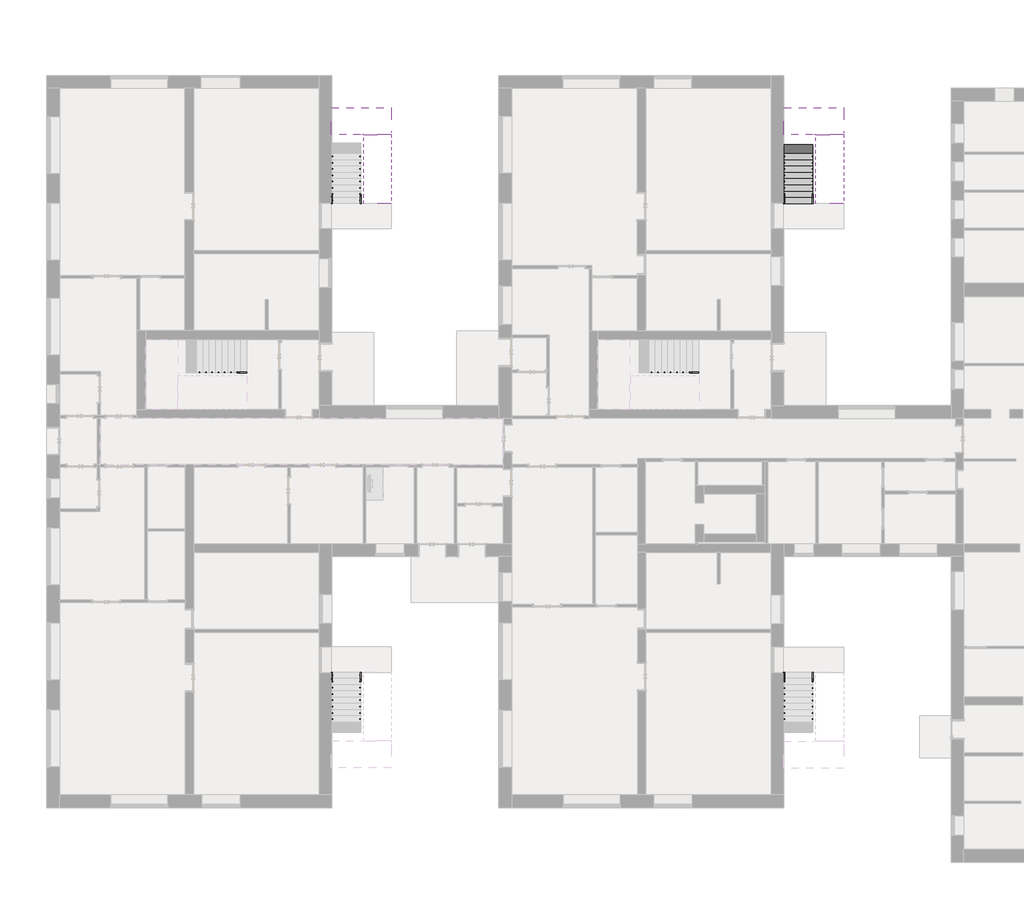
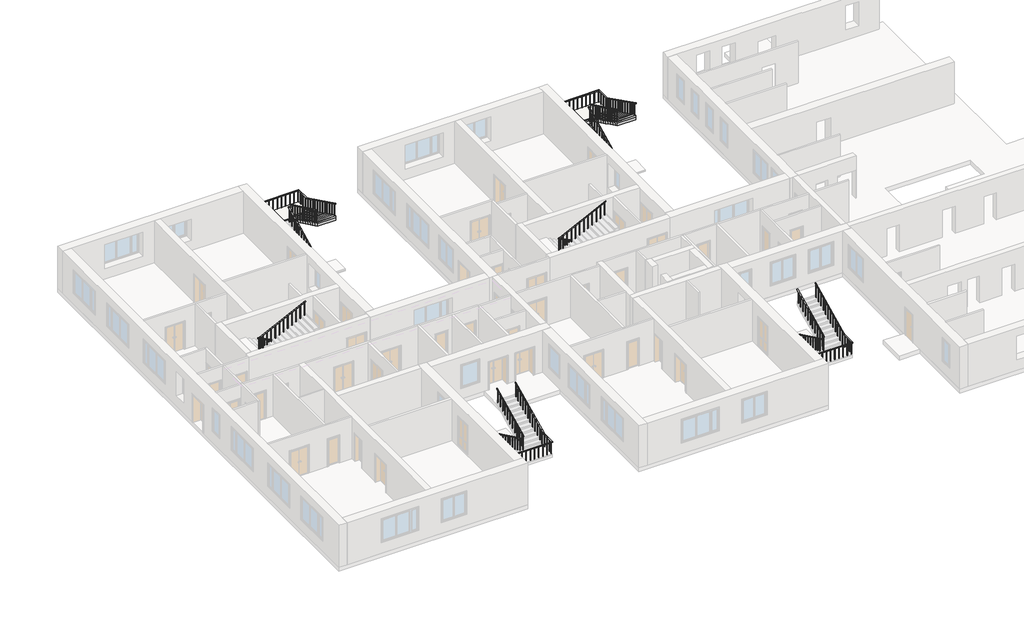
# One storey, part 9 of 10: 10 railings, 3 stair flights, 2 slabs.
"""IFC4 building model written with IfcOpenShell, lengths in millimetres."""

from ifc_helpers import new_model, si_unit, frame, origin, origin_with_axes, place, context, project, spatial, polyline, outline, extrude, faceted_brep, transform, mapped, element, save
from components import railing_d2b8c903, railing_f261a96f, railing_cd388d6e, railing_b141eba5, railing_4d810907, railing_037dd4ae, railing_066ca7b3, railing_68418ca2, railing_3763919b, railing_92f266af

model = new_model("IFC4")

# Units and contexts
model_context = context("Model", 3, world=origin())
ifc_project = project(units=[si_unit("LENGTHUNIT", "METRE", prefix="MILLI")], contexts=[model_context])

# Site, building, storey
site = spatial("IfcSite", under=ifc_project)
building = spatial("IfcBuilding", under=site)
storey = spatial("IfcBuildingStorey", under=building, Name="1 этаж", Elevation=0.0)

# Railings
placement = place(None, origin())
railing_shape = railing_d2b8c903(model_context)
element("IfcRailing", 1, ObjectType="ADSK_Стандартное_h 900 Поручень квадратный без направляющих", at=placement, inside=storey, context=model_context, shape_type="MappedRepresentation", body=[
    mapped(railing_shape, transform((0.0, 0.0, 0.0), x_axis=(1.0, 0.0, 0.0), y_axis=(0.0, 1.0, 0.0), z_axis=(0.0, 0.0, 1.0))),
])
railing_2_shape = railing_f261a96f(model_context)
element("IfcRailing", 2, ObjectType="ADSK_Стандартное_h 900 Поручень квадратный без направляющих", at=placement, inside=storey, context=model_context, shape_type="MappedRepresentation", body=[
    mapped(railing_2_shape, transform((0.0, 0.0, 0.0), x_axis=(1.0, 0.0, 0.0), y_axis=(0.0, 1.0, 0.0), z_axis=(0.0, 0.0, 1.0))),
])
railing_3_shape = railing_cd388d6e(model_context)
element("IfcRailing", 3, ObjectType="ADSK_Стандартное_h 900 Поручень квадратный без направляющих", at=placement, inside=storey, context=model_context, shape_type="MappedRepresentation", body=[
    mapped(railing_3_shape, transform((0.0, 0.0, 0.0), x_axis=(1.0, 0.0, 0.0), y_axis=(0.0, 1.0, 0.0), z_axis=(0.0, 0.0, 1.0))),
])
railing_4_shape = railing_b141eba5(model_context)
element("IfcRailing", 4, ObjectType="ADSK_Стандартное_h 900 Поручень квадратный без направляющих", at=placement, inside=storey, context=model_context, shape_type="MappedRepresentation", body=[
    mapped(railing_4_shape, transform((0.0, 0.0, 0.0), x_axis=(1.0, 0.0, 0.0), y_axis=(0.0, 1.0, 0.0), z_axis=(0.0, 0.0, 1.0))),
])
railing_5_shape = railing_4d810907(model_context)
element("IfcRailing", 5, ObjectType="ADSK_Стандартное_h 900 Поручень квадратный без направляющих", at=placement, inside=storey, context=model_context, shape_type="MappedRepresentation", body=[
    mapped(railing_5_shape, transform((0.0, 0.0, 0.0), x_axis=(1.0, 0.0, 0.0), y_axis=(0.0, 1.0, 0.0), z_axis=(0.0, 0.0, 1.0))),
])
railing_6_shape = railing_037dd4ae(model_context)
element("IfcRailing", 6, ObjectType="ADSK_Стандартное_h 900 Поручень квадратный без направляющих", at=placement, inside=storey, context=model_context, shape_type="MappedRepresentation", body=[
    mapped(railing_6_shape, transform((0.0, 0.0, 0.0), x_axis=(1.0, 0.0, 0.0), y_axis=(0.0, 1.0, 0.0), z_axis=(0.0, 0.0, 1.0))),
])
railing_7_shape = railing_066ca7b3(model_context)
element("IfcRailing", 7, ObjectType="ADSK_Стандартное_h 900 Поручень квадратный без направляющих", at=placement, inside=storey, context=model_context, shape_type="MappedRepresentation", body=[
    mapped(railing_7_shape, transform((0.0, 0.0, 0.0), x_axis=(1.0, 0.0, 0.0), y_axis=(0.0, 1.0, 0.0), z_axis=(0.0, 0.0, 1.0))),
])
railing_8_shape = railing_68418ca2(model_context)
element("IfcRailing", 8, ObjectType="ADSK_Стандартное_h 900 Поручень квадратный без направляющих", at=placement, inside=storey, context=model_context, shape_type="MappedRepresentation", body=[
    mapped(railing_8_shape, transform((0.0, 0.0, 0.0), x_axis=(1.0, 0.0, 0.0), y_axis=(0.0, 1.0, 0.0), z_axis=(0.0, 0.0, 1.0))),
])
railing_9_shape = railing_3763919b(model_context)
element("IfcRailing", 9, ObjectType="ADSK_Стандартное_h 900 Поручень квадратный без направляющих", at=placement, inside=storey, context=model_context, shape_type="MappedRepresentation", body=[
    mapped(railing_9_shape, transform((0.0, 0.0, 0.0), x_axis=(1.0, 0.0, 0.0), y_axis=(0.0, 1.0, 0.0), z_axis=(0.0, 0.0, 1.0))),
])
railing_10_shape = railing_92f266af(model_context)
element("IfcRailing", 10, ObjectType="ADSK_Стандартное_h 900 Поручень квадратный без направляющих", at=placement, inside=storey, context=model_context, shape_type="MappedRepresentation", body=[
    mapped(railing_10_shape, transform((0.0, 0.0, 0.0), x_axis=(1.0, 0.0, 0.0), y_axis=(0.0, 1.0, 0.0), z_axis=(0.0, 0.0, 1.0))),
])

# Slabs
element("IfcSlab", 11, ObjectType="ADSK_Монолитная_С отделкой_200х80", at=placement, inside=storey, context=model_context, shape_type="SolidModel", body=[
    faceted_brep([(-3162.3240021, 19819.4362632, 1710.0), (-3162.3240021, 19834.4362632, 1710.0), (-1782.7240021, 19834.4362632, 1710.0), (-1782.7240021, 19819.4362632, 1710.0), (-1641.9240021, 19819.4362632, 1710.0), (-1641.9240021, 19804.4362632, 1710.0), (-312.7240021, 19804.4362632, 1710.0), (-312.7240021, 19819.4362632, 1710.0), (-312.7240021, 19970.319489, 1710.0), (-312.7240021, 21109.0362632, 1710.0), (-3182.3240021, 21109.0362632, 1710.0), (-3182.3240021, 19819.4362632, 1710.0), (-3182.3240021, 19819.4362632, 1510.0), (-3162.3240021, 19819.4362632, 1510.0), (-3162.3240021, 19834.4362632, 1510.0), (-3162.3240021, 19834.4362632, 1610.8333333), (-1782.7240021, 19819.4362632, 1510.0), (-1641.9240021, 19819.4362632, 1510.0), (-1641.9240021, 19819.4362632, 1585.0224928), (-1641.9240021, 19804.4362632, 1592.4808261), (-312.7240021, 19804.4362632, 1592.4808261), (-312.7240021, 19819.4362632, 1585.0224928), (-312.7240021, 19970.319489, 1510.0), (-312.7240021, 21109.0362632, 1510.0), (-3182.3240021, 21109.0362632, 1510.0), (-1641.9240021, 19970.319489, 1510.0), (-1782.7240021, 19834.4362632, 1510.0), (-1782.7240021, 19968.5530375, 1510.0), (-3162.3240021, 19968.5530375, 1510.0), (-1782.7240021, 19834.4362632, 1443.3141595), (-3162.3240021, 19834.4362632, 1443.3141595), (-1782.7240021, 19834.4362632, 1610.8333333)], [[[0, 1, 2, 3, 4, 5, 6, 7, 8, 9, 10, 11]], [[0, 11, 12, 13]], [[1, 0, 13, 14, 15]], [[4, 3, 16, 17, 18]], [[5, 4, 18, 19]], [[6, 5, 19, 20]], [[7, 6, 20, 21]], [[7, 21, 22, 23, 9, 8]], [[10, 9, 23, 24]], [[11, 10, 24, 12]], [[25, 17, 16, 26, 27, 28, 14, 13, 12, 24, 23, 22]], [[28, 27, 29, 30]], [[27, 26, 29]], [[14, 28, 30]], [[25, 22, 21, 20, 19, 18]], [[2, 1, 15, 14, 30, 29, 26, 31]], [[3, 2, 31, 26, 16]], [[17, 25, 18]]]),
    extrude(outline(polyline([(-3162.3240021, 19819.4362632), (-3182.3240021, 19819.4362632), (-3182.3240021, 21109.0362632), (-312.7240021, 21109.0362632), (-312.7240021, 19819.4362632), (-1641.9240021, 19819.4362632), (-1782.7240021, 19819.4362632), (-3162.3240021, 19819.4362632)])), frame((0.0, 0.0, 1710.0), z_axis=(0.0, 0.0, 1.0), x_axis=(1.0, 0.0, 0.0)), (0.0, 0.0, 1.0), 80.0),
])
element("IfcSlab", 12, ObjectType="ADSK_Монолитная_С отделкой_200х80", at=placement, inside=storey, context=model_context, shape_type="SolidModel", body=[
    faceted_brep([(-24802.3240021, 19819.4362632, 1670.0), (-24802.3240021, 19834.4362632, 1670.0), (-23422.7240021, 19834.4362632, 1670.0), (-23422.7240021, 19819.4362632, 1670.0), (-23281.9240021, 19819.4362632, 1670.0), (-23281.9240021, 19804.4362632, 1670.0), (-21952.7240021, 19804.4362632, 1670.0), (-21952.7240021, 19819.4362632, 1670.0), (-21952.7240021, 19975.6238479, 1670.0), (-21952.7240021, 21109.0362632, 1670.0), (-24822.3240021, 21109.0362632, 1670.0), (-24822.3240021, 19819.4362632, 1670.0), (-24822.3240021, 19819.4362632, 1470.0), (-24802.3240021, 19819.4362632, 1470.0), (-24802.3240021, 19834.4362632, 1470.0), (-24802.3240021, 19834.4362632, 1574.1666667), (-23422.7240021, 19819.4362632, 1470.0), (-23281.9240021, 19819.4362632, 1470.0), (-23281.9240021, 19819.4362632, 1545.9245203), (-23281.9240021, 19804.4362632, 1553.216187), (-21952.7240021, 19804.4362632, 1553.216187), (-21952.7240021, 19819.4362632, 1545.9245203), (-21952.7240021, 19975.6238479, 1470.0), (-21952.7240021, 21109.0362632, 1470.0), (-24822.3240021, 21109.0362632, 1470.0), (-23281.9240021, 19975.6238479, 1470.0), (-23422.7240021, 19834.4362632, 1470.0), (-23422.7240021, 19963.2486785, 1470.0), (-24802.3240021, 19963.2486785, 1470.0), (-23422.7240021, 19834.4362632, 1407.3828537), (-24802.3240021, 19834.4362632, 1407.3828537), (-23422.7240021, 19834.4362632, 1574.1666667)], [[[0, 1, 2, 3, 4, 5, 6, 7, 8, 9, 10, 11]], [[0, 11, 12, 13]], [[1, 0, 13, 14, 15]], [[4, 3, 16, 17, 18]], [[5, 4, 18, 19]], [[6, 5, 19, 20]], [[7, 6, 20, 21]], [[7, 21, 22, 23, 9, 8]], [[10, 9, 23, 24]], [[11, 10, 24, 12]], [[25, 17, 16, 26, 27, 28, 14, 13, 12, 24, 23, 22]], [[28, 27, 29, 30]], [[27, 26, 29]], [[14, 28, 30]], [[25, 22, 21, 20, 19, 18]], [[2, 1, 15, 14, 30, 29, 26, 31]], [[3, 2, 31, 26, 16]], [[17, 25, 18]]]),
    extrude(outline(polyline([(-24802.3240021, 19819.4362632), (-24822.3240021, 19819.4362632), (-24822.3240021, 21109.0362632), (-21952.7240021, 21109.0362632), (-21952.7240021, 19819.4362632), (-23281.9240021, 19819.4362632), (-23422.7240021, 19819.4362632), (-24802.3240021, 19819.4362632)])), frame((0.0, 0.0, 1670.0), z_axis=(0.0, 0.0, 1.0), x_axis=(1.0, 0.0, 0.0)), (0.0, 0.0, 1.0), 80.0),
])

# Stair flights
element("IfcStairFlight", 13, ObjectType="ADSK_Монолитный_С отделкой_150х30х15", at=placement, inside=storey, context=model_context, shape_type="SolidModel", body=[
    faceted_brep([(-3162.3240021, 16834.4362632, 119.1666667), (-3162.3240021, 16534.4362632, 119.1666667), (-1782.7240021, 16534.4362632, 119.1666667), (-1782.7240021, 16834.4362632, 119.1666667), (-3162.3240021, 16834.4362632, 0.0), (-3162.3240021, 16534.4362632, 0.0), (-1782.7240021, 16534.4362632, 0.0), (-1782.7240021, 16834.4362632, 0.0), (-3162.3240021, 17134.4362632, 268.3333333), (-3162.3240021, 16834.4362632, 268.3333333), (-1782.7240021, 16834.4362632, 268.3333333), (-1782.7240021, 17134.4362632, 268.3333333), (-3162.3240021, 17134.4362632, 100.8141595), (-3162.3240021, 16931.6815291, 0.0), (-1782.7240021, 16931.6815291, 0.0), (-1782.7240021, 17134.4362632, 100.8141595), (-3162.3240021, 17434.4362632, 417.5), (-3162.3240021, 17134.4362632, 417.5), (-1782.7240021, 17134.4362632, 417.5), (-1782.7240021, 17434.4362632, 417.5), (-3162.3240021, 17434.4362632, 249.9808261), (-1782.7240021, 17434.4362632, 249.9808261), (-3162.3240021, 17734.4362632, 566.6666667), (-3162.3240021, 17434.4362632, 566.6666667), (-1782.7240021, 17434.4362632, 566.6666667), (-1782.7240021, 17734.4362632, 566.6666667), (-3162.3240021, 17734.4362632, 399.1474928), (-1782.7240021, 17734.4362632, 399.1474928), (-3162.3240021, 18034.4362632, 715.8333333), (-3162.3240021, 17734.4362632, 715.8333333), (-1782.7240021, 17734.4362632, 715.8333333), (-1782.7240021, 18034.4362632, 715.8333333), (-3162.3240021, 18034.4362632, 548.3141595), (-1782.7240021, 18034.4362632, 548.3141595), (-3162.3240021, 18334.4362632, 865.0), (-3162.3240021, 18034.4362632, 865.0), (-1782.7240021, 18034.4362632, 865.0), (-1782.7240021, 18334.4362632, 865.0), (-3162.3240021, 18334.4362632, 697.4808261), (-1782.7240021, 18334.4362632, 697.4808261), (-3162.3240021, 18634.4362632, 1014.1666667), (-3162.3240021, 18334.4362632, 1014.1666667), (-1782.7240021, 18334.4362632, 1014.1666667), (-1782.7240021, 18634.4362632, 1014.1666667), (-3162.3240021, 18634.4362632, 846.6474928), (-1782.7240021, 18634.4362632, 846.6474928), (-3162.3240021, 18934.4362632, 1163.3333333), (-3162.3240021, 18634.4362632, 1163.3333333), (-1782.7240021, 18634.4362632, 1163.3333333), (-1782.7240021, 18934.4362632, 1163.3333333), (-3162.3240021, 18934.4362632, 995.8141595), (-1782.7240021, 18934.4362632, 995.8141595), (-3162.3240021, 19234.4362632, 1312.5), (-3162.3240021, 18934.4362632, 1312.5), (-1782.7240021, 18934.4362632, 1312.5), (-1782.7240021, 19234.4362632, 1312.5), (-3162.3240021, 19234.4362632, 1144.9808261), (-1782.7240021, 19234.4362632, 1144.9808261), (-3162.3240021, 19534.4362632, 1461.6666667), (-3162.3240021, 19234.4362632, 1461.6666667), (-1782.7240021, 19234.4362632, 1461.6666667), (-1782.7240021, 19534.4362632, 1461.6666667), (-3162.3240021, 19534.4362632, 1294.1474928), (-1782.7240021, 19534.4362632, 1294.1474928), (-3162.3240021, 19534.4362632, 1610.8333333), (-1782.7240021, 19534.4362632, 1610.8333333), (-1782.7240021, 19819.4362632, 1610.8333333), (-1782.7240021, 19834.4362632, 1610.8333333), (-3162.3240021, 19834.4362632, 1610.8333333), (-3162.3240021, 19819.4362632, 1610.8333333), (-3162.3240021, 19834.4362632, 1510.0), (-3162.3240021, 19834.4362632, 1443.3141595), (-1782.7240021, 19834.4362632, 1443.3141595), (-1782.7240021, 19834.4362632, 1510.0)], [[[0, 1, 2, 3]], [[1, 0, 4, 5]], [[2, 1, 5, 6]], [[3, 2, 6, 7]], [[8, 9, 10, 11]], [[4, 0, 9, 8, 12, 13]], [[0, 3, 10, 9]], [[3, 7, 14, 15, 11, 10]], [[16, 17, 18, 19]], [[17, 16, 20, 12, 8]], [[8, 11, 18, 17]], [[19, 18, 11, 15, 21]], [[22, 23, 24, 25]], [[23, 22, 26, 20, 16]], [[16, 19, 24, 23]], [[25, 24, 19, 21, 27]], [[28, 29, 30, 31]], [[29, 28, 32, 26, 22]], [[22, 25, 30, 29]], [[31, 30, 25, 27, 33]], [[34, 35, 36, 37]], [[35, 34, 38, 32, 28]], [[28, 31, 36, 35]], [[37, 36, 31, 33, 39]], [[40, 41, 42, 43]], [[41, 40, 44, 38, 34]], [[34, 37, 42, 41]], [[43, 42, 37, 39, 45]], [[46, 47, 48, 49]], [[47, 46, 50, 44, 40]], [[40, 43, 48, 47]], [[49, 48, 43, 45, 51]], [[52, 53, 54, 55]], [[53, 52, 56, 50, 46]], [[46, 49, 54, 53]], [[55, 54, 49, 51, 57]], [[58, 59, 60, 61]], [[59, 58, 62, 56, 52]], [[52, 55, 60, 59]], [[61, 60, 55, 57, 63]], [[64, 65, 66, 67, 68, 69]], [[58, 64, 69, 68, 70, 71, 62]], [[58, 61, 65, 64]], [[65, 61, 63, 72, 73, 67, 66]], [[68, 67, 73, 72, 71, 70]], [[5, 4, 13, 14, 7, 6]], [[14, 13, 12, 20, 26, 32, 38, 44, 50, 56, 62, 71, 72, 63, 57, 51, 45, 39, 33, 27, 21, 15]]]),
    extrude(outline(polyline([(-1782.7240021, 16534.4362632), (-1782.7240021, 16519.4362632), (-3162.3240021, 16519.4362632), (-3162.3240021, 16534.4362632), (-1782.7240021, 16534.4362632)])), origin_with_axes(), (0.0, 0.0, 1.0), 119.1666667),
    extrude(outline(polyline([(-3162.3240021, 16819.4362632), (-1782.7240021, 16819.4362632), (-1782.7240021, 16519.4362632), (-3162.3240021, 16519.4362632), (-3162.3240021, 16819.4362632)])), frame((0.0, 0.0, 119.1666667), z_axis=(0.0, 0.0, 1.0), x_axis=(1.0, 0.0, 0.0)), (0.0, 0.0, 1.0), 30.0),
    extrude(outline(polyline([(-1782.7240021, 16834.4362632), (-1782.7240021, 16819.4362632), (-3162.3240021, 16819.4362632), (-3162.3240021, 16834.4362632), (-1782.7240021, 16834.4362632)])), frame((0.0, 0.0, 119.1666667), z_axis=(0.0, 0.0, 1.0), x_axis=(1.0, 0.0, 0.0)), (0.0, 0.0, 1.0), 149.1666667),
    extrude(outline(polyline([(-3162.3240021, 17119.4362632), (-1782.7240021, 17119.4362632), (-1782.7240021, 16819.4362632), (-3162.3240021, 16819.4362632), (-3162.3240021, 17119.4362632)])), frame((0.0, 0.0, 268.3333333), z_axis=(0.0, 0.0, 1.0), x_axis=(1.0, 0.0, 0.0)), (0.0, 0.0, 1.0), 30.0),
    extrude(outline(polyline([(-1782.7240021, 17134.4362632), (-1782.7240021, 17119.4362632), (-3162.3240021, 17119.4362632), (-3162.3240021, 17134.4362632), (-1782.7240021, 17134.4362632)])), frame((0.0, 0.0, 268.3333333), z_axis=(0.0, 0.0, 1.0), x_axis=(1.0, 0.0, 0.0)), (0.0, 0.0, 1.0), 149.1666667),
    extrude(outline(polyline([(-3162.3240021, 17419.4362632), (-1782.7240021, 17419.4362632), (-1782.7240021, 17119.4362632), (-3162.3240021, 17119.4362632), (-3162.3240021, 17419.4362632)])), frame((0.0, 0.0, 417.5), z_axis=(0.0, 0.0, 1.0), x_axis=(1.0, 0.0, 0.0)), (0.0, 0.0, 1.0), 30.0),
    extrude(outline(polyline([(-1782.7240021, 17434.4362632), (-1782.7240021, 17419.4362632), (-3162.3240021, 17419.4362632), (-3162.3240021, 17434.4362632), (-1782.7240021, 17434.4362632)])), frame((0.0, 0.0, 417.5), z_axis=(0.0, 0.0, 1.0), x_axis=(1.0, 0.0, 0.0)), (0.0, 0.0, 1.0), 149.1666667),
    extrude(outline(polyline([(-3162.3240021, 17719.4362632), (-1782.7240021, 17719.4362632), (-1782.7240021, 17419.4362632), (-3162.3240021, 17419.4362632), (-3162.3240021, 17719.4362632)])), frame((0.0, 0.0, 566.6666667), z_axis=(0.0, 0.0, 1.0), x_axis=(1.0, 0.0, 0.0)), (0.0, 0.0, 1.0), 30.0),
    extrude(outline(polyline([(-1782.7240021, 17734.4362632), (-1782.7240021, 17719.4362632), (-3162.3240021, 17719.4362632), (-3162.3240021, 17734.4362632), (-1782.7240021, 17734.4362632)])), frame((0.0, 0.0, 566.6666667), z_axis=(0.0, 0.0, 1.0), x_axis=(1.0, 0.0, 0.0)), (0.0, 0.0, 1.0), 149.1666667),
    extrude(outline(polyline([(-3162.3240021, 18019.4362632), (-1782.7240021, 18019.4362632), (-1782.7240021, 17719.4362632), (-3162.3240021, 17719.4362632), (-3162.3240021, 18019.4362632)])), frame((0.0, 0.0, 715.8333333), z_axis=(0.0, 0.0, 1.0), x_axis=(1.0, 0.0, 0.0)), (0.0, 0.0, 1.0), 30.0),
    extrude(outline(polyline([(-1782.7240021, 18034.4362632), (-1782.7240021, 18019.4362632), (-3162.3240021, 18019.4362632), (-3162.3240021, 18034.4362632), (-1782.7240021, 18034.4362632)])), frame((0.0, 0.0, 715.8333333), z_axis=(0.0, 0.0, 1.0), x_axis=(1.0, 0.0, 0.0)), (0.0, 0.0, 1.0), 149.1666667),
    extrude(outline(polyline([(-3162.3240021, 18319.4362632), (-1782.7240021, 18319.4362632), (-1782.7240021, 18019.4362632), (-3162.3240021, 18019.4362632), (-3162.3240021, 18319.4362632)])), frame((0.0, 0.0, 865.0), z_axis=(0.0, 0.0, 1.0), x_axis=(1.0, 0.0, 0.0)), (0.0, 0.0, 1.0), 30.0),
    extrude(outline(polyline([(-1782.7240021, 18334.4362632), (-1782.7240021, 18319.4362632), (-3162.3240021, 18319.4362632), (-3162.3240021, 18334.4362632), (-1782.7240021, 18334.4362632)])), frame((0.0, 0.0, 865.0), z_axis=(0.0, 0.0, 1.0), x_axis=(1.0, 0.0, 0.0)), (0.0, 0.0, 1.0), 149.1666667),
    extrude(outline(polyline([(-3162.3240021, 18619.4362632), (-1782.7240021, 18619.4362632), (-1782.7240021, 18319.4362632), (-3162.3240021, 18319.4362632), (-3162.3240021, 18619.4362632)])), frame((0.0, 0.0, 1014.1666667), z_axis=(0.0, 0.0, 1.0), x_axis=(1.0, 0.0, 0.0)), (0.0, 0.0, 1.0), 30.0),
    extrude(outline(polyline([(-1782.7240021, 18634.4362632), (-1782.7240021, 18619.4362632), (-3162.3240021, 18619.4362632), (-3162.3240021, 18634.4362632), (-1782.7240021, 18634.4362632)])), frame((0.0, 0.0, 1014.1666667), z_axis=(0.0, 0.0, 1.0), x_axis=(1.0, 0.0, 0.0)), (0.0, 0.0, 1.0), 149.1666667),
    extrude(outline(polyline([(-3162.3240021, 18919.4362632), (-1782.7240021, 18919.4362632), (-1782.7240021, 18619.4362632), (-3162.3240021, 18619.4362632), (-3162.3240021, 18919.4362632)])), frame((0.0, 0.0, 1163.3333333), z_axis=(0.0, 0.0, 1.0), x_axis=(1.0, 0.0, 0.0)), (0.0, 0.0, 1.0), 30.0),
    extrude(outline(polyline([(-1782.7240021, 18934.4362632), (-1782.7240021, 18919.4362632), (-3162.3240021, 18919.4362632), (-3162.3240021, 18934.4362632), (-1782.7240021, 18934.4362632)])), frame((0.0, 0.0, 1163.3333333), z_axis=(0.0, 0.0, 1.0), x_axis=(1.0, 0.0, 0.0)), (0.0, 0.0, 1.0), 149.1666667),
    extrude(outline(polyline([(-3162.3240021, 19219.4362632), (-1782.7240021, 19219.4362632), (-1782.7240021, 18919.4362632), (-3162.3240021, 18919.4362632), (-3162.3240021, 19219.4362632)])), frame((0.0, 0.0, 1312.5), z_axis=(0.0, 0.0, 1.0), x_axis=(1.0, 0.0, 0.0)), (0.0, 0.0, 1.0), 30.0),
    extrude(outline(polyline([(-1782.7240021, 19234.4362632), (-1782.7240021, 19219.4362632), (-3162.3240021, 19219.4362632), (-3162.3240021, 19234.4362632), (-1782.7240021, 19234.4362632)])), frame((0.0, 0.0, 1312.5), z_axis=(0.0, 0.0, 1.0), x_axis=(1.0, 0.0, 0.0)), (0.0, 0.0, 1.0), 149.1666667),
    extrude(outline(polyline([(-3162.3240021, 19519.4362632), (-1782.7240021, 19519.4362632), (-1782.7240021, 19219.4362632), (-3162.3240021, 19219.4362632), (-3162.3240021, 19519.4362632)])), frame((0.0, 0.0, 1461.6666667), z_axis=(0.0, 0.0, 1.0), x_axis=(1.0, 0.0, 0.0)), (0.0, 0.0, 1.0), 30.0),
    extrude(outline(polyline([(-1782.7240021, 19534.4362632), (-1782.7240021, 19519.4362632), (-3162.3240021, 19519.4362632), (-3162.3240021, 19534.4362632), (-1782.7240021, 19534.4362632)])), frame((0.0, 0.0, 1461.6666667), z_axis=(0.0, 0.0, 1.0), x_axis=(1.0, 0.0, 0.0)), (0.0, 0.0, 1.0), 149.1666667),
    extrude(outline(polyline([(-1782.7240021, 19834.4362632), (-1782.7240021, 19819.4362632), (-3162.3240021, 19819.4362632), (-3162.3240021, 19834.4362632), (-1782.7240021, 19834.4362632)])), frame((0.0, 0.0, 1610.8333333), z_axis=(0.0, 0.0, 1.0), x_axis=(1.0, 0.0, 0.0)), (0.0, 0.0, 1.0), 99.1666667),
    extrude(outline(polyline([(-3162.3240021, 19819.4362632), (-1782.7240021, 19819.4362632), (-1782.7240021, 19519.4362632), (-3162.3240021, 19519.4362632), (-3162.3240021, 19819.4362632)])), frame((0.0, 0.0, 1610.8333333), z_axis=(0.0, 0.0, 1.0), x_axis=(1.0, 0.0, 0.0)), (0.0, 0.0, 1.0), 30.0),
])
element("IfcStairFlight", 14, ObjectType="ADSK_Монолитный_С отделкой_150х30х15", at=placement, inside=storey, context=model_context, shape_type="SolidModel", body=[
    faceted_brep([(-312.7240021, 19504.4362632, 1909.1666667), (-312.7240021, 19804.4362632, 1909.1666667), (-1641.9240021, 19804.4362632, 1909.1666667), (-1641.9240021, 19504.4362632, 1909.1666667), (-312.7240021, 19504.4362632, 1741.6474928), (-312.7240021, 19804.4362632, 1592.4808261), (-312.7240021, 19804.4362632, 1710.0), (-1641.9240021, 19804.4362632, 1592.4808261), (-1641.9240021, 19804.4362632, 1710.0), (-1641.9240021, 19504.4362632, 1741.6474928), (-312.7240021, 19204.4362632, 2058.3333333), (-312.7240021, 19504.4362632, 2058.3333333), (-1641.9240021, 19504.4362632, 2058.3333333), (-1641.9240021, 19204.4362632, 2058.3333333), (-312.7240021, 19204.4362632, 1890.8141595), (-1641.9240021, 19204.4362632, 1890.8141595), (-312.7240021, 18904.4362632, 2207.5), (-312.7240021, 19204.4362632, 2207.5), (-1641.9240021, 19204.4362632, 2207.5), (-1641.9240021, 18904.4362632, 2207.5), (-312.7240021, 18904.4362632, 2039.9808261), (-1641.9240021, 18904.4362632, 2039.9808261), (-312.7240021, 18604.4362632, 2356.6666667), (-312.7240021, 18904.4362632, 2356.6666667), (-1641.9240021, 18904.4362632, 2356.6666667), (-1641.9240021, 18604.4362632, 2356.6666667), (-312.7240021, 18604.4362632, 2189.1474928), (-1641.9240021, 18604.4362632, 2189.1474928), (-312.7240021, 18304.4362632, 2505.8333333), (-312.7240021, 18604.4362632, 2505.8333333), (-1641.9240021, 18604.4362632, 2505.8333333), (-1641.9240021, 18304.4362632, 2505.8333333), (-312.7240021, 18304.4362632, 2338.3141595), (-1641.9240021, 18304.4362632, 2338.3141595), (-312.7240021, 18004.4362632, 2655.0), (-312.7240021, 18304.4362632, 2655.0), (-1641.9240021, 18304.4362632, 2655.0), (-1641.9240021, 18004.4362632, 2655.0), (-312.7240021, 18004.4362632, 2487.4808261), (-1641.9240021, 18004.4362632, 2487.4808261), (-312.7240021, 17704.4362632, 2804.1666667), (-312.7240021, 18004.4362632, 2804.1666667), (-1641.9240021, 18004.4362632, 2804.1666667), (-1641.9240021, 17704.4362632, 2804.1666667), (-312.7240021, 17704.4362632, 2636.6474928), (-1641.9240021, 17704.4362632, 2636.6474928), (-312.7240021, 17404.4362632, 2953.3333333), (-312.7240021, 17704.4362632, 2953.3333333), (-1641.9240021, 17704.4362632, 2953.3333333), (-1641.9240021, 17404.4362632, 2953.3333333), (-312.7240021, 17404.4362632, 2785.8141595), (-1641.9240021, 17404.4362632, 2785.8141595), (-312.7240021, 17104.4362632, 3102.5), (-312.7240021, 17404.4362632, 3102.5), (-1641.9240021, 17404.4362632, 3102.5), (-1641.9240021, 17104.4362632, 3102.5), (-312.7240021, 17104.4362632, 2934.9808261), (-1641.9240021, 17104.4362632, 2934.9808261), (-312.7240021, 16804.4362632, 3251.6666667), (-312.7240021, 17104.4362632, 3251.6666667), (-1641.9240021, 17104.4362632, 3251.6666667), (-1641.9240021, 16804.4362632, 3251.6666667), (-312.7240021, 16804.4362632, 3084.1474928), (-1641.9240021, 16804.4362632, 3084.1474928), (-312.7240021, 16504.4362632, 3400.8333333), (-312.7240021, 16804.4362632, 3400.8333333), (-1641.9240021, 16804.4362632, 3400.8333333), (-1641.9240021, 16504.4362632, 3400.8333333), (-312.7240021, 16504.4362632, 3233.3141595), (-1641.9240021, 16504.4362632, 3233.3141595)], [[[0, 1, 2, 3]], [[1, 0, 4, 5, 6]], [[2, 1, 6, 5, 7, 8]], [[3, 2, 8, 7, 9]], [[10, 11, 12, 13]], [[11, 10, 14, 4, 0]], [[12, 11, 0, 3]], [[13, 12, 3, 9, 15]], [[16, 17, 18, 19]], [[17, 16, 20, 14, 10]], [[18, 17, 10, 13]], [[19, 18, 13, 15, 21]], [[22, 23, 24, 25]], [[23, 22, 26, 20, 16]], [[24, 23, 16, 19]], [[25, 24, 19, 21, 27]], [[28, 29, 30, 31]], [[29, 28, 32, 26, 22]], [[30, 29, 22, 25]], [[31, 30, 25, 27, 33]], [[34, 35, 36, 37]], [[35, 34, 38, 32, 28]], [[36, 35, 28, 31]], [[37, 36, 31, 33, 39]], [[40, 41, 42, 43]], [[41, 40, 44, 38, 34]], [[42, 41, 34, 37]], [[43, 42, 37, 39, 45]], [[46, 47, 48, 49]], [[47, 46, 50, 44, 40]], [[48, 47, 40, 43]], [[49, 48, 43, 45, 51]], [[52, 53, 54, 55]], [[53, 52, 56, 50, 46]], [[54, 53, 46, 49]], [[55, 54, 49, 51, 57]], [[58, 59, 60, 61]], [[59, 58, 62, 56, 52]], [[60, 59, 52, 55]], [[61, 60, 55, 57, 63]], [[64, 65, 66, 67]], [[65, 64, 68, 62, 58]], [[66, 65, 58, 61]], [[67, 66, 61, 63, 69]], [[64, 67, 69, 68]], [[5, 4, 14, 20, 26, 32, 38, 44, 50, 56, 62, 68, 69, 63, 57, 51, 45, 39, 33, 27, 21, 15, 9, 7]]]),
    extrude(outline(polyline([(-1641.9240021, 19804.4362632), (-1641.9240021, 19819.4362632), (-312.7240021, 19819.4362632), (-312.7240021, 19804.4362632), (-1641.9240021, 19804.4362632)])), frame((0.0, 0.0, 1710.0), z_axis=(0.0, 0.0, 1.0), x_axis=(1.0, 0.0, 0.0)), (0.0, 0.0, 1.0), 199.1666667),
    extrude(outline(polyline([(-312.7240021, 19519.4362632), (-1641.9240021, 19519.4362632), (-1641.9240021, 19819.4362632), (-312.7240021, 19819.4362632), (-312.7240021, 19519.4362632)])), frame((0.0, 0.0, 1909.1666667), z_axis=(0.0, 0.0, 1.0), x_axis=(1.0, 0.0, 0.0)), (0.0, 0.0, 1.0), 30.0),
    extrude(outline(polyline([(-1641.9240021, 19504.4362632), (-1641.9240021, 19519.4362632), (-312.7240021, 19519.4362632), (-312.7240021, 19504.4362632), (-1641.9240021, 19504.4362632)])), frame((0.0, 0.0, 1909.1666667), z_axis=(0.0, 0.0, 1.0), x_axis=(1.0, 0.0, 0.0)), (0.0, 0.0, 1.0), 149.1666667),
    extrude(outline(polyline([(-312.7240021, 19219.4362632), (-1641.9240021, 19219.4362632), (-1641.9240021, 19519.4362632), (-312.7240021, 19519.4362632), (-312.7240021, 19219.4362632)])), frame((0.0, 0.0, 2058.3333333), z_axis=(0.0, 0.0, 1.0), x_axis=(1.0, 0.0, 0.0)), (0.0, 0.0, 1.0), 30.0),
    extrude(outline(polyline([(-1641.9240021, 19204.4362632), (-1641.9240021, 19219.4362632), (-312.7240021, 19219.4362632), (-312.7240021, 19204.4362632), (-1641.9240021, 19204.4362632)])), frame((0.0, 0.0, 2058.3333333), z_axis=(0.0, 0.0, 1.0), x_axis=(1.0, 0.0, 0.0)), (0.0, 0.0, 1.0), 149.1666667),
    extrude(outline(polyline([(-312.7240021, 18919.4362632), (-1641.9240021, 18919.4362632), (-1641.9240021, 19219.4362632), (-312.7240021, 19219.4362632), (-312.7240021, 18919.4362632)])), frame((0.0, 0.0, 2207.5), z_axis=(0.0, 0.0, 1.0), x_axis=(1.0, 0.0, 0.0)), (0.0, 0.0, 1.0), 30.0),
    extrude(outline(polyline([(-1641.9240021, 18904.4362632), (-1641.9240021, 18919.4362632), (-312.7240021, 18919.4362632), (-312.7240021, 18904.4362632), (-1641.9240021, 18904.4362632)])), frame((0.0, 0.0, 2207.5), z_axis=(0.0, 0.0, 1.0), x_axis=(1.0, 0.0, 0.0)), (0.0, 0.0, 1.0), 149.1666667),
    extrude(outline(polyline([(-312.7240021, 18619.4362632), (-1641.9240021, 18619.4362632), (-1641.9240021, 18919.4362632), (-312.7240021, 18919.4362632), (-312.7240021, 18619.4362632)])), frame((0.0, 0.0, 2356.6666667), z_axis=(0.0, 0.0, 1.0), x_axis=(1.0, 0.0, 0.0)), (0.0, 0.0, 1.0), 30.0),
    extrude(outline(polyline([(-1641.9240021, 18604.4362632), (-1641.9240021, 18619.4362632), (-312.7240021, 18619.4362632), (-312.7240021, 18604.4362632), (-1641.9240021, 18604.4362632)])), frame((0.0, 0.0, 2356.6666667), z_axis=(0.0, 0.0, 1.0), x_axis=(1.0, 0.0, 0.0)), (0.0, 0.0, 1.0), 149.1666667),
    extrude(outline(polyline([(-312.7240021, 18319.4362632), (-1641.9240021, 18319.4362632), (-1641.9240021, 18619.4362632), (-312.7240021, 18619.4362632), (-312.7240021, 18319.4362632)])), frame((0.0, 0.0, 2505.8333333), z_axis=(0.0, 0.0, 1.0), x_axis=(1.0, 0.0, 0.0)), (0.0, 0.0, 1.0), 30.0),
    extrude(outline(polyline([(-1641.9240021, 18304.4362632), (-1641.9240021, 18319.4362632), (-312.7240021, 18319.4362632), (-312.7240021, 18304.4362632), (-1641.9240021, 18304.4362632)])), frame((0.0, 0.0, 2505.8333333), z_axis=(0.0, 0.0, 1.0), x_axis=(1.0, 0.0, 0.0)), (0.0, 0.0, 1.0), 149.1666667),
    extrude(outline(polyline([(-312.7240021, 18019.4362632), (-1641.9240021, 18019.4362632), (-1641.9240021, 18319.4362632), (-312.7240021, 18319.4362632), (-312.7240021, 18019.4362632)])), frame((0.0, 0.0, 2655.0), z_axis=(0.0, 0.0, 1.0), x_axis=(1.0, 0.0, 0.0)), (0.0, 0.0, 1.0), 30.0),
    extrude(outline(polyline([(-1641.9240021, 18004.4362632), (-1641.9240021, 18019.4362632), (-312.7240021, 18019.4362632), (-312.7240021, 18004.4362632), (-1641.9240021, 18004.4362632)])), frame((0.0, 0.0, 2655.0), z_axis=(0.0, 0.0, 1.0), x_axis=(1.0, 0.0, 0.0)), (0.0, 0.0, 1.0), 149.1666667),
    extrude(outline(polyline([(-312.7240021, 17719.4362632), (-1641.9240021, 17719.4362632), (-1641.9240021, 18019.4362632), (-312.7240021, 18019.4362632), (-312.7240021, 17719.4362632)])), frame((0.0, 0.0, 2804.1666667), z_axis=(0.0, 0.0, 1.0), x_axis=(1.0, 0.0, 0.0)), (0.0, 0.0, 1.0), 30.0),
    extrude(outline(polyline([(-1641.9240021, 17704.4362632), (-1641.9240021, 17719.4362632), (-312.7240021, 17719.4362632), (-312.7240021, 17704.4362632), (-1641.9240021, 17704.4362632)])), frame((0.0, 0.0, 2804.1666667), z_axis=(0.0, 0.0, 1.0), x_axis=(1.0, 0.0, 0.0)), (0.0, 0.0, 1.0), 149.1666667),
    extrude(outline(polyline([(-312.7240021, 17419.4362632), (-1641.9240021, 17419.4362632), (-1641.9240021, 17719.4362632), (-312.7240021, 17719.4362632), (-312.7240021, 17419.4362632)])), frame((0.0, 0.0, 2953.3333333), z_axis=(0.0, 0.0, 1.0), x_axis=(1.0, 0.0, 0.0)), (0.0, 0.0, 1.0), 30.0),
    extrude(outline(polyline([(-1641.9240021, 17404.4362632), (-1641.9240021, 17419.4362632), (-312.7240021, 17419.4362632), (-312.7240021, 17404.4362632), (-1641.9240021, 17404.4362632)])), frame((0.0, 0.0, 2953.3333333), z_axis=(0.0, 0.0, 1.0), x_axis=(1.0, 0.0, 0.0)), (0.0, 0.0, 1.0), 149.1666667),
    extrude(outline(polyline([(-312.7240021, 17119.4362632), (-1641.9240021, 17119.4362632), (-1641.9240021, 17419.4362632), (-312.7240021, 17419.4362632), (-312.7240021, 17119.4362632)])), frame((0.0, 0.0, 3102.5), z_axis=(0.0, 0.0, 1.0), x_axis=(1.0, 0.0, 0.0)), (0.0, 0.0, 1.0), 30.0),
    extrude(outline(polyline([(-1641.9240021, 17104.4362632), (-1641.9240021, 17119.4362632), (-312.7240021, 17119.4362632), (-312.7240021, 17104.4362632), (-1641.9240021, 17104.4362632)])), frame((0.0, 0.0, 3102.5), z_axis=(0.0, 0.0, 1.0), x_axis=(1.0, 0.0, 0.0)), (0.0, 0.0, 1.0), 149.1666667),
    extrude(outline(polyline([(-312.7240021, 16819.4362632), (-1641.9240021, 16819.4362632), (-1641.9240021, 17119.4362632), (-312.7240021, 17119.4362632), (-312.7240021, 16819.4362632)])), frame((0.0, 0.0, 3251.6666667), z_axis=(0.0, 0.0, 1.0), x_axis=(1.0, 0.0, 0.0)), (0.0, 0.0, 1.0), 30.0),
    extrude(outline(polyline([(-1641.9240021, 16804.4362632), (-1641.9240021, 16819.4362632), (-312.7240021, 16819.4362632), (-312.7240021, 16804.4362632), (-1641.9240021, 16804.4362632)])), frame((0.0, 0.0, 3251.6666667), z_axis=(0.0, 0.0, 1.0), x_axis=(1.0, 0.0, 0.0)), (0.0, 0.0, 1.0), 149.1666667),
    extrude(outline(polyline([(-1641.9240021, 16504.4362632), (-1641.9240021, 16519.4362632), (-312.7240021, 16519.4362632), (-312.7240021, 16504.4362632), (-1641.9240021, 16504.4362632)])), frame((0.0, 0.0, 3400.8333333), z_axis=(0.0, 0.0, 1.0), x_axis=(1.0, 0.0, 0.0)), (0.0, 0.0, 1.0), 149.1666667),
    extrude(outline(polyline([(-312.7240021, 16519.4362632), (-1641.9240021, 16519.4362632), (-1641.9240021, 16819.4362632), (-312.7240021, 16819.4362632), (-312.7240021, 16519.4362632)])), frame((0.0, 0.0, 3400.8333333), z_axis=(0.0, 0.0, 1.0), x_axis=(1.0, 0.0, 0.0)), (0.0, 0.0, 1.0), 30.0),
])
element("IfcStairFlight", 15, ObjectType="ADSK_Монолитный_С отделкой_150х30х15", at=placement, inside=storey, context=model_context, shape_type="SolidModel", body=[
    faceted_brep([(-21952.7240021, 19504.4362632, 1865.8333333), (-21952.7240021, 19804.4362632, 1865.8333333), (-23281.9240021, 19804.4362632, 1865.8333333), (-23281.9240021, 19504.4362632, 1865.8333333), (-21952.7240021, 19504.4362632, 1699.0495203), (-21952.7240021, 19804.4362632, 1553.216187), (-21952.7240021, 19804.4362632, 1670.0), (-23281.9240021, 19804.4362632, 1553.216187), (-23281.9240021, 19804.4362632, 1670.0), (-23281.9240021, 19504.4362632, 1699.0495203), (-21952.7240021, 19204.4362632, 2011.6666667), (-21952.7240021, 19504.4362632, 2011.6666667), (-23281.9240021, 19504.4362632, 2011.6666667), (-23281.9240021, 19204.4362632, 2011.6666667), (-21952.7240021, 19204.4362632, 1844.8828537), (-23281.9240021, 19204.4362632, 1844.8828537), (-21952.7240021, 18904.4362632, 2157.5), (-21952.7240021, 19204.4362632, 2157.5), (-23281.9240021, 19204.4362632, 2157.5), (-23281.9240021, 18904.4362632, 2157.5), (-21952.7240021, 18904.4362632, 1990.716187), (-23281.9240021, 18904.4362632, 1990.716187), (-21952.7240021, 18604.4362632, 2303.3333333), (-21952.7240021, 18904.4362632, 2303.3333333), (-23281.9240021, 18904.4362632, 2303.3333333), (-23281.9240021, 18604.4362632, 2303.3333333), (-21952.7240021, 18604.4362632, 2136.5495203), (-23281.9240021, 18604.4362632, 2136.5495203), (-21952.7240021, 18304.4362632, 2449.1666667), (-21952.7240021, 18604.4362632, 2449.1666667), (-23281.9240021, 18604.4362632, 2449.1666667), (-23281.9240021, 18304.4362632, 2449.1666667), (-21952.7240021, 18304.4362632, 2282.3828537), (-23281.9240021, 18304.4362632, 2282.3828537), (-21952.7240021, 18004.4362632, 2595.0), (-21952.7240021, 18304.4362632, 2595.0), (-23281.9240021, 18304.4362632, 2595.0), (-23281.9240021, 18004.4362632, 2595.0), (-21952.7240021, 18004.4362632, 2428.216187), (-23281.9240021, 18004.4362632, 2428.216187), (-21952.7240021, 17704.4362632, 2740.8333333), (-21952.7240021, 18004.4362632, 2740.8333333), (-23281.9240021, 18004.4362632, 2740.8333333), (-23281.9240021, 17704.4362632, 2740.8333333), (-21952.7240021, 17704.4362632, 2574.0495203), (-23281.9240021, 17704.4362632, 2574.0495203), (-21952.7240021, 17404.4362632, 2886.6666667), (-21952.7240021, 17704.4362632, 2886.6666667), (-23281.9240021, 17704.4362632, 2886.6666667), (-23281.9240021, 17404.4362632, 2886.6666667), (-21952.7240021, 17404.4362632, 2719.8828537), (-23281.9240021, 17404.4362632, 2719.8828537), (-21952.7240021, 17104.4362632, 3032.5), (-21952.7240021, 17404.4362632, 3032.5), (-23281.9240021, 17404.4362632, 3032.5), (-23281.9240021, 17104.4362632, 3032.5), (-21952.7240021, 17104.4362632, 2865.716187), (-23281.9240021, 17104.4362632, 2865.716187), (-21952.7240021, 16804.4362632, 3178.3333333), (-21952.7240021, 17104.4362632, 3178.3333333), (-23281.9240021, 17104.4362632, 3178.3333333), (-23281.9240021, 16804.4362632, 3178.3333333), (-21952.7240021, 16804.4362632, 3011.5495203), (-23281.9240021, 16804.4362632, 3011.5495203), (-21952.7240021, 16504.4362632, 3324.1666667), (-21952.7240021, 16804.4362632, 3324.1666667), (-23281.9240021, 16804.4362632, 3324.1666667), (-23281.9240021, 16504.4362632, 3324.1666667), (-21952.7240021, 16504.4362632, 3157.3828537), (-23281.9240021, 16504.4362632, 3157.3828537)], [[[0, 1, 2, 3]], [[1, 0, 4, 5, 6]], [[2, 1, 6, 5, 7, 8]], [[3, 2, 8, 7, 9]], [[10, 11, 12, 13]], [[11, 10, 14, 4, 0]], [[12, 11, 0, 3]], [[13, 12, 3, 9, 15]], [[16, 17, 18, 19]], [[17, 16, 20, 14, 10]], [[18, 17, 10, 13]], [[19, 18, 13, 15, 21]], [[22, 23, 24, 25]], [[23, 22, 26, 20, 16]], [[24, 23, 16, 19]], [[25, 24, 19, 21, 27]], [[28, 29, 30, 31]], [[29, 28, 32, 26, 22]], [[30, 29, 22, 25]], [[31, 30, 25, 27, 33]], [[34, 35, 36, 37]], [[35, 34, 38, 32, 28]], [[36, 35, 28, 31]], [[37, 36, 31, 33, 39]], [[40, 41, 42, 43]], [[41, 40, 44, 38, 34]], [[42, 41, 34, 37]], [[43, 42, 37, 39, 45]], [[46, 47, 48, 49]], [[47, 46, 50, 44, 40]], [[48, 47, 40, 43]], [[49, 48, 43, 45, 51]], [[52, 53, 54, 55]], [[53, 52, 56, 50, 46]], [[54, 53, 46, 49]], [[55, 54, 49, 51, 57]], [[58, 59, 60, 61]], [[59, 58, 62, 56, 52]], [[60, 59, 52, 55]], [[61, 60, 55, 57, 63]], [[64, 65, 66, 67]], [[65, 64, 68, 62, 58]], [[66, 65, 58, 61]], [[67, 66, 61, 63, 69]], [[64, 67, 69, 68]], [[5, 4, 14, 20, 26, 32, 38, 44, 50, 56, 62, 68, 69, 63, 57, 51, 45, 39, 33, 27, 21, 15, 9, 7]]]),
    extrude(outline(polyline([(-23281.9240021, 19804.4362632), (-23281.9240021, 19819.4362632), (-21952.7240021, 19819.4362632), (-21952.7240021, 19804.4362632), (-23281.9240021, 19804.4362632)])), frame((0.0, 0.0, 1670.0), z_axis=(0.0, 0.0, 1.0), x_axis=(1.0, 0.0, 0.0)), (0.0, 0.0, 1.0), 195.8333333),
    extrude(outline(polyline([(-21952.7240021, 19519.4362632), (-23281.9240021, 19519.4362632), (-23281.9240021, 19819.4362632), (-21952.7240021, 19819.4362632), (-21952.7240021, 19519.4362632)])), frame((0.0, 0.0, 1865.8333333), z_axis=(0.0, 0.0, 1.0), x_axis=(1.0, 0.0, 0.0)), (0.0, 0.0, 1.0), 30.0),
    extrude(outline(polyline([(-23281.9240021, 19504.4362632), (-23281.9240021, 19519.4362632), (-21952.7240021, 19519.4362632), (-21952.7240021, 19504.4362632), (-23281.9240021, 19504.4362632)])), frame((0.0, 0.0, 1865.8333333), z_axis=(0.0, 0.0, 1.0), x_axis=(1.0, 0.0, 0.0)), (0.0, 0.0, 1.0), 145.8333333),
    extrude(outline(polyline([(-21952.7240021, 19219.4362632), (-23281.9240021, 19219.4362632), (-23281.9240021, 19519.4362632), (-21952.7240021, 19519.4362632), (-21952.7240021, 19219.4362632)])), frame((0.0, 0.0, 2011.6666667), z_axis=(0.0, 0.0, 1.0), x_axis=(1.0, 0.0, 0.0)), (0.0, 0.0, 1.0), 30.0),
    extrude(outline(polyline([(-23281.9240021, 19204.4362632), (-23281.9240021, 19219.4362632), (-21952.7240021, 19219.4362632), (-21952.7240021, 19204.4362632), (-23281.9240021, 19204.4362632)])), frame((0.0, 0.0, 2011.6666667), z_axis=(0.0, 0.0, 1.0), x_axis=(1.0, 0.0, 0.0)), (0.0, 0.0, 1.0), 145.8333333),
    extrude(outline(polyline([(-21952.7240021, 18919.4362632), (-23281.9240021, 18919.4362632), (-23281.9240021, 19219.4362632), (-21952.7240021, 19219.4362632), (-21952.7240021, 18919.4362632)])), frame((0.0, 0.0, 2157.5), z_axis=(0.0, 0.0, 1.0), x_axis=(1.0, 0.0, 0.0)), (0.0, 0.0, 1.0), 30.0),
    extrude(outline(polyline([(-23281.9240021, 18904.4362632), (-23281.9240021, 18919.4362632), (-21952.7240021, 18919.4362632), (-21952.7240021, 18904.4362632), (-23281.9240021, 18904.4362632)])), frame((0.0, 0.0, 2157.5), z_axis=(0.0, 0.0, 1.0), x_axis=(1.0, 0.0, 0.0)), (0.0, 0.0, 1.0), 145.8333333),
    extrude(outline(polyline([(-21952.7240021, 18619.4362632), (-23281.9240021, 18619.4362632), (-23281.9240021, 18919.4362632), (-21952.7240021, 18919.4362632), (-21952.7240021, 18619.4362632)])), frame((0.0, 0.0, 2303.3333333), z_axis=(0.0, 0.0, 1.0), x_axis=(1.0, 0.0, 0.0)), (0.0, 0.0, 1.0), 30.0),
    extrude(outline(polyline([(-23281.9240021, 18604.4362632), (-23281.9240021, 18619.4362632), (-21952.7240021, 18619.4362632), (-21952.7240021, 18604.4362632), (-23281.9240021, 18604.4362632)])), frame((0.0, 0.0, 2303.3333333), z_axis=(0.0, 0.0, 1.0), x_axis=(1.0, 0.0, 0.0)), (0.0, 0.0, 1.0), 145.8333333),
    extrude(outline(polyline([(-21952.7240021, 18319.4362632), (-23281.9240021, 18319.4362632), (-23281.9240021, 18619.4362632), (-21952.7240021, 18619.4362632), (-21952.7240021, 18319.4362632)])), frame((0.0, 0.0, 2449.1666667), z_axis=(0.0, 0.0, 1.0), x_axis=(1.0, 0.0, 0.0)), (0.0, 0.0, 1.0), 30.0),
    extrude(outline(polyline([(-23281.9240021, 18304.4362632), (-23281.9240021, 18319.4362632), (-21952.7240021, 18319.4362632), (-21952.7240021, 18304.4362632), (-23281.9240021, 18304.4362632)])), frame((0.0, 0.0, 2449.1666667), z_axis=(0.0, 0.0, 1.0), x_axis=(1.0, 0.0, 0.0)), (0.0, 0.0, 1.0), 145.8333333),
    extrude(outline(polyline([(-21952.7240021, 18019.4362632), (-23281.9240021, 18019.4362632), (-23281.9240021, 18319.4362632), (-21952.7240021, 18319.4362632), (-21952.7240021, 18019.4362632)])), frame((0.0, 0.0, 2595.0), z_axis=(0.0, 0.0, 1.0), x_axis=(1.0, 0.0, 0.0)), (0.0, 0.0, 1.0), 30.0),
    extrude(outline(polyline([(-23281.9240021, 18004.4362632), (-23281.9240021, 18019.4362632), (-21952.7240021, 18019.4362632), (-21952.7240021, 18004.4362632), (-23281.9240021, 18004.4362632)])), frame((0.0, 0.0, 2595.0), z_axis=(0.0, 0.0, 1.0), x_axis=(1.0, 0.0, 0.0)), (0.0, 0.0, 1.0), 145.8333333),
    extrude(outline(polyline([(-21952.7240021, 17719.4362632), (-23281.9240021, 17719.4362632), (-23281.9240021, 18019.4362632), (-21952.7240021, 18019.4362632), (-21952.7240021, 17719.4362632)])), frame((0.0, 0.0, 2740.8333333), z_axis=(0.0, 0.0, 1.0), x_axis=(1.0, 0.0, 0.0)), (0.0, 0.0, 1.0), 30.0),
    extrude(outline(polyline([(-23281.9240021, 17704.4362632), (-23281.9240021, 17719.4362632), (-21952.7240021, 17719.4362632), (-21952.7240021, 17704.4362632), (-23281.9240021, 17704.4362632)])), frame((0.0, 0.0, 2740.8333333), z_axis=(0.0, 0.0, 1.0), x_axis=(1.0, 0.0, 0.0)), (0.0, 0.0, 1.0), 145.8333333),
    extrude(outline(polyline([(-21952.7240021, 17419.4362632), (-23281.9240021, 17419.4362632), (-23281.9240021, 17719.4362632), (-21952.7240021, 17719.4362632), (-21952.7240021, 17419.4362632)])), frame((0.0, 0.0, 2886.6666667), z_axis=(0.0, 0.0, 1.0), x_axis=(1.0, 0.0, 0.0)), (0.0, 0.0, 1.0), 30.0),
    extrude(outline(polyline([(-23281.9240021, 17404.4362632), (-23281.9240021, 17419.4362632), (-21952.7240021, 17419.4362632), (-21952.7240021, 17404.4362632), (-23281.9240021, 17404.4362632)])), frame((0.0, 0.0, 2886.6666667), z_axis=(0.0, 0.0, 1.0), x_axis=(1.0, 0.0, 0.0)), (0.0, 0.0, 1.0), 145.8333333),
    extrude(outline(polyline([(-21952.7240021, 17119.4362632), (-23281.9240021, 17119.4362632), (-23281.9240021, 17419.4362632), (-21952.7240021, 17419.4362632), (-21952.7240021, 17119.4362632)])), frame((0.0, 0.0, 3032.5), z_axis=(0.0, 0.0, 1.0), x_axis=(1.0, 0.0, 0.0)), (0.0, 0.0, 1.0), 30.0),
    extrude(outline(polyline([(-23281.9240021, 17104.4362632), (-23281.9240021, 17119.4362632), (-21952.7240021, 17119.4362632), (-21952.7240021, 17104.4362632), (-23281.9240021, 17104.4362632)])), frame((0.0, 0.0, 3032.5), z_axis=(0.0, 0.0, 1.0), x_axis=(1.0, 0.0, 0.0)), (0.0, 0.0, 1.0), 145.8333333),
    extrude(outline(polyline([(-21952.7240021, 16819.4362632), (-23281.9240021, 16819.4362632), (-23281.9240021, 17119.4362632), (-21952.7240021, 17119.4362632), (-21952.7240021, 16819.4362632)])), frame((0.0, 0.0, 3178.3333333), z_axis=(0.0, 0.0, 1.0), x_axis=(1.0, 0.0, 0.0)), (0.0, 0.0, 1.0), 30.0),
    extrude(outline(polyline([(-23281.9240021, 16804.4362632), (-23281.9240021, 16819.4362632), (-21952.7240021, 16819.4362632), (-21952.7240021, 16804.4362632), (-23281.9240021, 16804.4362632)])), frame((0.0, 0.0, 3178.3333333), z_axis=(0.0, 0.0, 1.0), x_axis=(1.0, 0.0, 0.0)), (0.0, 0.0, 1.0), 145.8333333),
    extrude(outline(polyline([(-23281.9240021, 16504.4362632), (-23281.9240021, 16519.4362632), (-21952.7240021, 16519.4362632), (-21952.7240021, 16504.4362632), (-23281.9240021, 16504.4362632)])), frame((0.0, 0.0, 3324.1666667), z_axis=(0.0, 0.0, 1.0), x_axis=(1.0, 0.0, 0.0)), (0.0, 0.0, 1.0), 145.8333333),
    extrude(outline(polyline([(-21952.7240021, 16519.4362632), (-23281.9240021, 16519.4362632), (-23281.9240021, 16819.4362632), (-21952.7240021, 16819.4362632), (-21952.7240021, 16519.4362632)])), frame((0.0, 0.0, 3324.1666667), z_axis=(0.0, 0.0, 1.0), x_axis=(1.0, 0.0, 0.0)), (0.0, 0.0, 1.0), 30.0),
])

save(model, "model.ifc")
